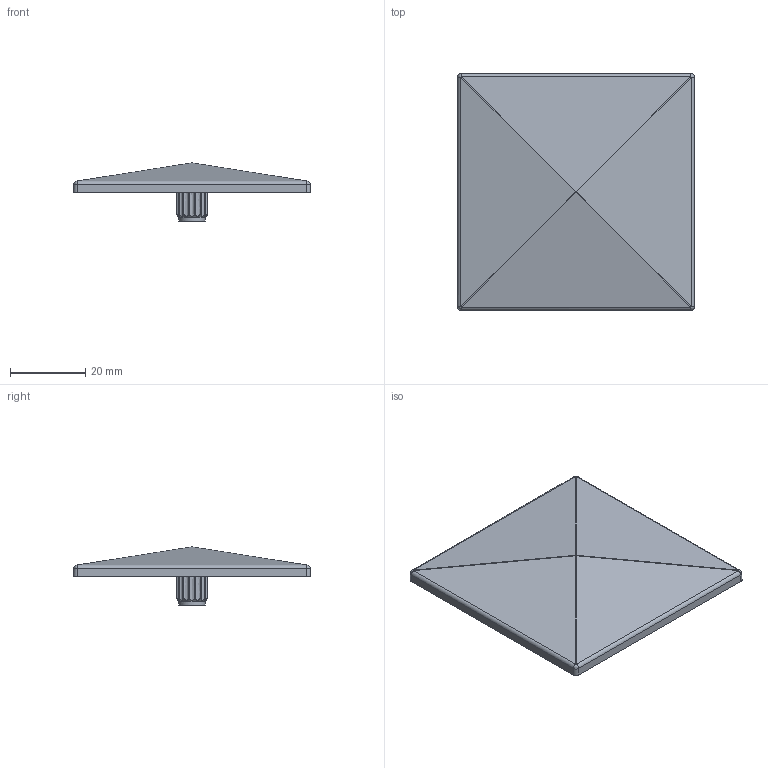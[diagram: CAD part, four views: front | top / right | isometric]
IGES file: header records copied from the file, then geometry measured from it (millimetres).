
Start section: C
Global section: file name: 0052-65.igs; native system: By Siemens PLM Incorporated; preprocessor: XPlus GENERIC/IGES 16.0.42; author: Author; organization: Title; date: 20231129.113001; units: millimetre
Bounding box: 63 x 63 x 15.49 mm (x, y, z)
Surface area: 9649.5 mm2 (no closed solid volume)
Topology: 0 solids, 0 shells, 76 faces, 391 edges, 390 vertices
Faces by surface type: bspline 76
